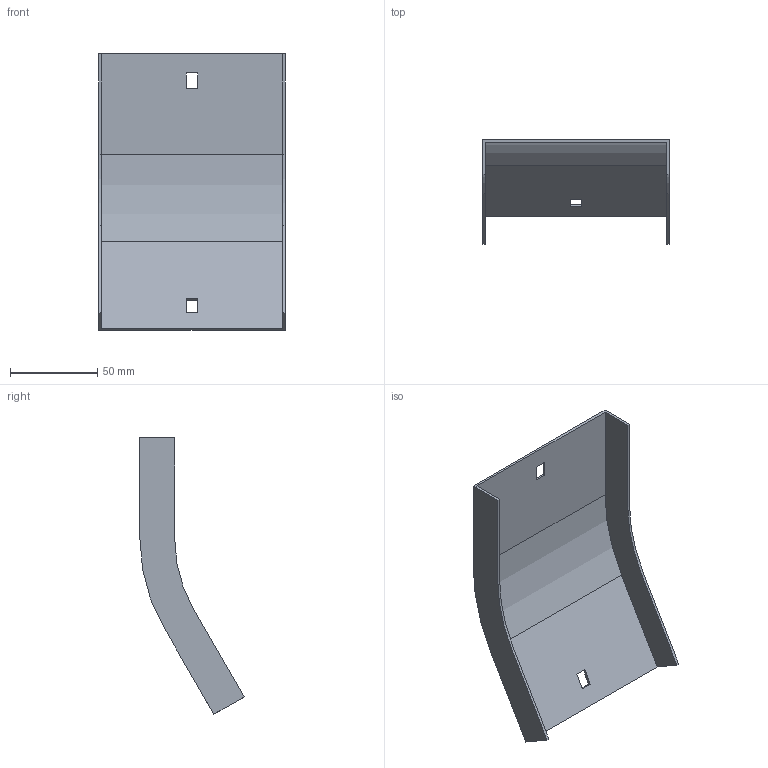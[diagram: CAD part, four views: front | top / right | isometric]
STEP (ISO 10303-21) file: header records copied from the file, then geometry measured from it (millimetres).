
FILE_DESCRIPTION (( 'STEP AP214' ), '1' );
FILE_NAME ('35G1D100.step', '2025-02-21T12:40:32', ( '' ), ( '' ), 'SwSTEP 2.0', 'SolidWorks 2023', '' );
FILE_SCHEMA (( 'AUTOMOTIVE_DESIGN' ));
Length unit declared in the file: millimetre
Products named in the file (1): 35G1D100
Bounding box: 107 x 59.87 x 158.79 mm (x, y, z)
Volume: 35941.3 mm3; surface area: 48923.3 mm2
Topology: 1 solids, 1 shells, 26 faces, 72 edges, 48 vertices
Faces by surface type: plane 22, cylinder 4
Entity records: 855 total; most frequent: CARTESIAN_POINT 147, ORIENTED_EDGE 144, DIRECTION 134, EDGE_CURVE 72, VECTOR 64, LINE 64, VERTEX_POINT 48, AXIS2_PLACEMENT_3D 35
